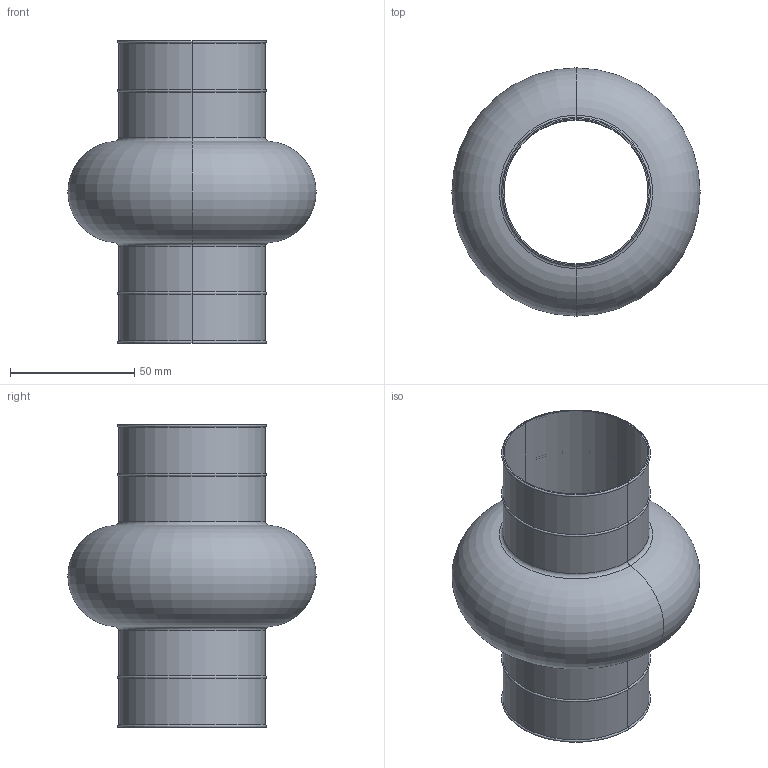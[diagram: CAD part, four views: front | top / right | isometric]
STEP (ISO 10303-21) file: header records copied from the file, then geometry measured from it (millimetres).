
FILE_DESCRIPTION (( 'STEP AP203' ), '1' );
FILE_NAME ('65280.W0058.step', '2018-06-20T18:12:59', ( '' ), ( '' ), 'SwSTEP 2.0', 'SolidWorks 2017', '' );
FILE_SCHEMA (( 'CONFIG_CONTROL_DESIGN' ));
Length unit declared in the file: millimetre
Products named in the file (1): 65280.W0058
Bounding box: 100 x 100 x 122 mm (x, y, z)
Volume: 16463.6 mm3; surface area: 64433.6 mm2
Topology: 1 solids, 1 shells, 30 faces, 60 edges, 32 vertices
Faces by surface type: torus 16, cylinder 12, plane 2
Entity records: 861 total; most frequent: DIRECTION 170, CARTESIAN_POINT 123, ORIENTED_EDGE 120, AXIS2_PLACEMENT_3D 79, EDGE_CURVE 60, CIRCLE 48, VERTEX_POINT 32, EDGE_LOOP 32
